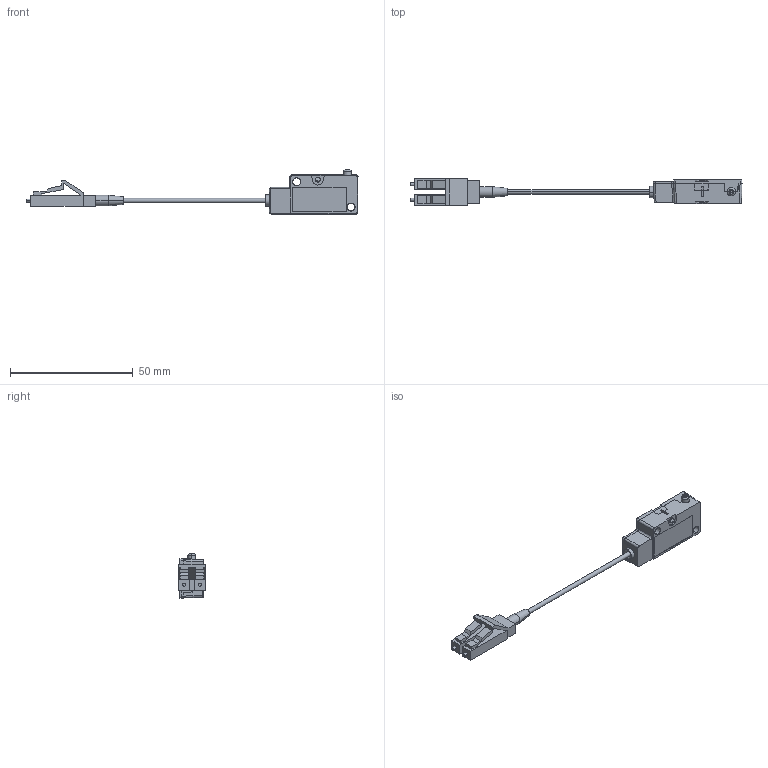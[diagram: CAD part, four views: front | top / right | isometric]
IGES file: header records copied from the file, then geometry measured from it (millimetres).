
Start section: SolidWorks IGES file using analytic representation for surfaces
Global section: file name: N:\_MR380_Signaling\_Micro-Switch\Mechanical\Molded_Version\Micronor_MR-0386_REVX3_SWModels\MR386.IGS; native system: SolidWorks 2016; preprocessor: SolidWorks 2016; author: alan; date: 160428.113823; units: inch
Bounding box: 135.28 x 10.77 x 17.93 mm (x, y, z)
Surface area: 6700.6 mm2 (no closed solid volume)
Topology: 0 solids, 0 shells, 644 faces, 7189 edges, 7189 vertices
Faces by surface type: bspline 523, revolution 121
